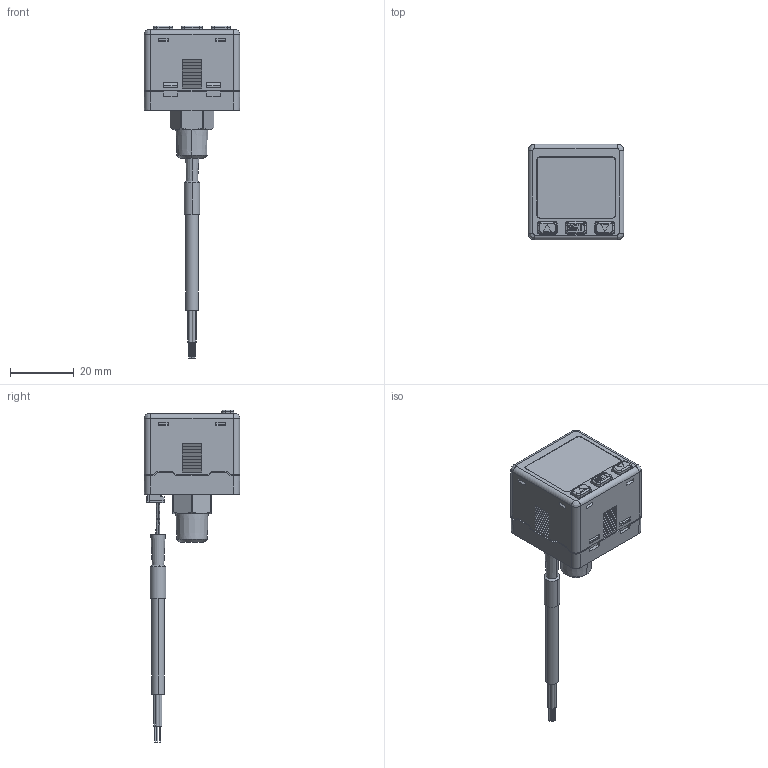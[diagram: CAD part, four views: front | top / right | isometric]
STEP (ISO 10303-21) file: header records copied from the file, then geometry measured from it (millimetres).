
FILE_DESCRIPTION((''),'2;1');
FILE_NAME('KP43V-04-F2-5','2019-04-23T',('Stark'),(''),'CREO PARAMETRIC BY PTC INC, 2014500','CREO PARAMETRIC BY PTC INC, 2014500','');
FILE_SCHEMA(('CONFIG_CONTROL_DESIGN'));
Products named in the file (1): KP43V-04-F2-5
Bounding box: 30.03 x 30 x 104.05 mm (x, y, z)
Volume: 15010.4 mm3; surface area: 20403.3 mm2
Topology: 2 solids, 2 shells, 2306 faces, 6410 edges, 4076 vertices
Faces by surface type: plane 1814, cylinder 315, cone 65, torus 47, bspline 45, sphere 20
Entity records: 75375 total; most frequent: CARTESIAN_POINT 16150, ORIENTED_EDGE 12808, DIRECTION 11480, EDGE_CURVE 6404, VECTOR 5412, LINE 5412, VERTEX_POINT 4076, AXIS2_PLACEMENT_3D 3034
